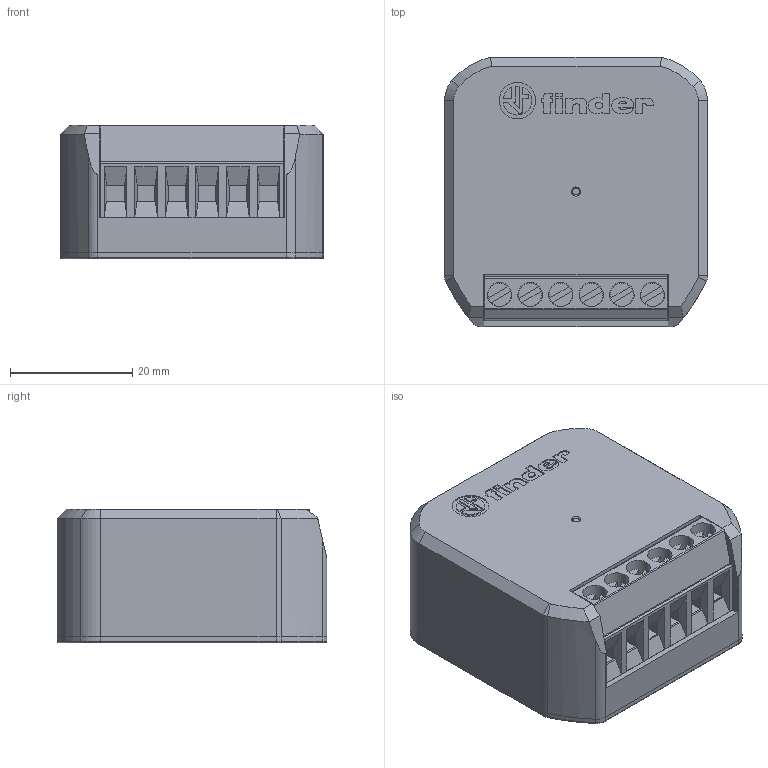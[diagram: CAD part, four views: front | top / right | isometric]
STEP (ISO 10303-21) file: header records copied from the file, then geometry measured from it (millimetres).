
FILE_DESCRIPTION(/* description */ ('Unknown'),/* implementation_level */ '2;1');
FILE_NAME(/* name */ '13S2',/* time_stamp */ '2019-01-29T15:40:39+01:00',/* author */ ('Unknown'),/* organization */ ('Unknown'),/* preprocessor_version */ 'ST-DEVELOPER v16.7',/* originating_system */ 'DEX',/* authorisation */ $);
FILE_SCHEMA (('AP203_CONFIGURATION_CONTROLLED_3D_DESIGN_OF_MECHANICAL_PARTS_AND_ASSEMBLIES_MIM_LF { 1 0 10303 203 3 1 4 }','AUTOMOTIVE_DESIGN { 1 0 10303 214 3 1 1 }','AUTOMOTIVE_DESIGN {1 0 10303 214 3 1 1}'));
Length unit declared in the file: millimetre
Products named in the file (1): 1322
Bounding box: 43 x 44.1 x 21.9 mm (x, y, z)
Surface area: 8812.3 mm2 (no closed solid volume)
Topology: 0 solids, 19 shells, 348 faces, 1072 edges, 738 vertices
Faces by surface type: plane 252, cylinder 75, torus 11, cone 10
Full cylindrical faces by diameter (mm): 5.962 x1
Entity records: 11886 total; most frequent: CARTESIAN_POINT 2157, DIRECTION 2000, ORIENTED_EDGE 1785, EDGE_CURVE 1066, LINE 826, VECTOR 826, VERTEX_POINT 736, AXIS2_PLACEMENT_3D 587
